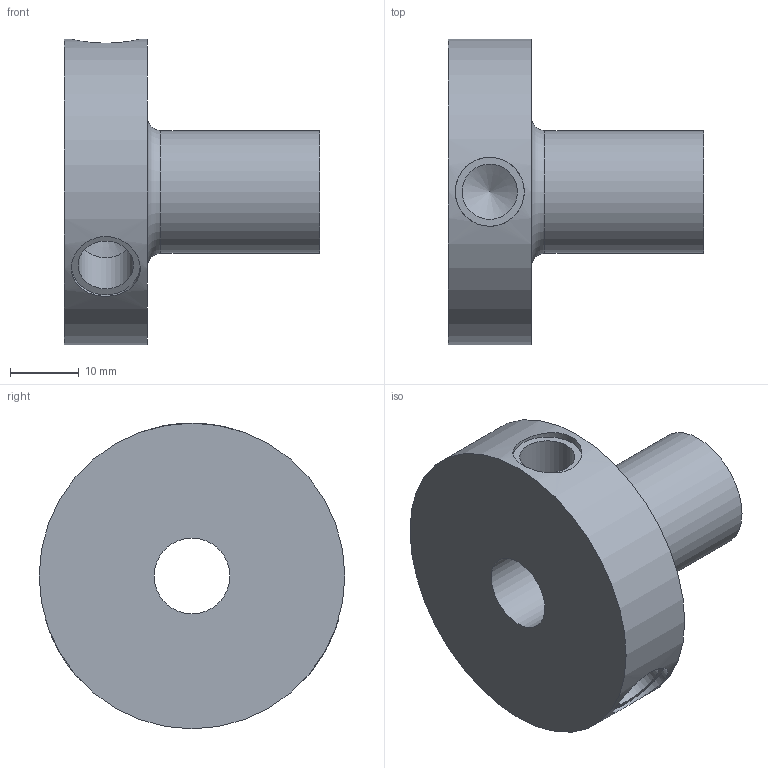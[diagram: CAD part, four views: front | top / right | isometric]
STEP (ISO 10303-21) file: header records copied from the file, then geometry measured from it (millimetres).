
FILE_DESCRIPTION(('STEP AP242'), '1');
FILE_NAME('26.06.2025.001 - Ôëàíåö', '', ('UNSPECIFIED'), ('UNSPECIFIED'), 'C3D Converter', 'C3D Toolkit', '');
FILE_SCHEMA(('AP242_MANAGED_MODEL_BASED_3D_ENGINEERING_MIM_LF { 1 0 10303 442 1 1 4 }'));
Length unit declared in the file: millimetre
Products named in the file (1): СЦ.26.06.2025.001
Bounding box: 37 x 44.3 x 44.3 mm (x, y, z)
Volume: 19571.2 mm3; surface area: 7962.7 mm2
Topology: 1 solids, 1 shells, 19 faces, 40 edges, 28 vertices
Faces by surface type: cylinder 9, plane 6, cone 3, torus 1
Full cylindrical faces by diameter (mm): 8 x3, 10 x3, 11 x1, 17.8 x1, 44.3 x1
Entity records: 2295 total; most frequent: CARTESIAN_POINT 965, DIRECTION 182, AXIS2_PLACEMENT_3D 91, COLOUR_RGB 90, PRESENTATION_STYLE_ASSIGNMENT 90, CURVE_STYLE 66, PRE_DEFINED_CURVE_FONT 66, EDGE_LOOP 38
